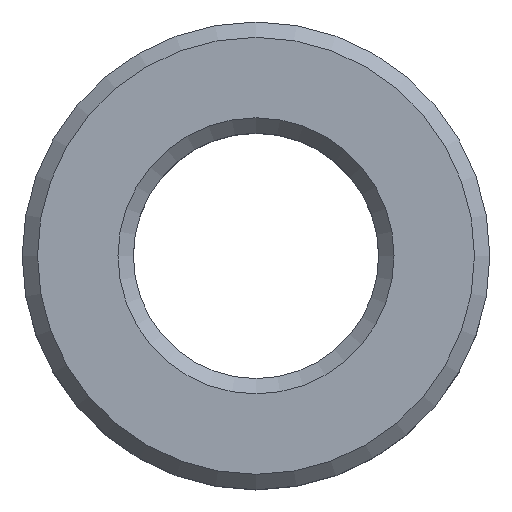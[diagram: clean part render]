
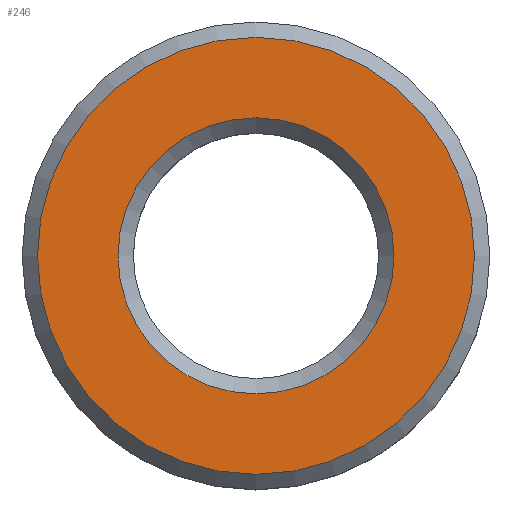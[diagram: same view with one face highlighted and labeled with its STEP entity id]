
A CAD part, top view. The second image highlights one B-rep face of the part: STEP entity #246.
In plain terms, the highlighted planar face has unit normal (0, 0, 1).
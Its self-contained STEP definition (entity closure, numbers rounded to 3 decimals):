
#66 = CONICAL_SURFACE('',#67,3.05,0.785);
#67 = AXIS2_PLACEMENT_3D('',#68,#69,#70);
#68 = CARTESIAN_POINT('',(0.,0.,1.05));
#69 = DIRECTION('',(-0.,-0.,-1.));
#70 = DIRECTION('',(1.,0.,0.));
#163 = VERTEX_POINT('',#164);
#164 = CARTESIAN_POINT('',(2.85,0.,1.25));
#185 = EDGE_CURVE('',#163,#163,#186,.T.);
#186 = SURFACE_CURVE('',#187,(#192,#199),.PCURVE_S1.);
#187 = CIRCLE('',#188,2.85);
#188 = AXIS2_PLACEMENT_3D('',#189,#190,#191);
#189 = CARTESIAN_POINT('',(0.,0.,1.25));
#190 = DIRECTION('',(0.,0.,1.));
#191 = DIRECTION('',(1.,0.,-0.));
#192 = PCURVE('',#66,#193);
#193 = DEFINITIONAL_REPRESENTATION('',(#194),#198);
#194 = LINE('',#195,#196);
#195 = CARTESIAN_POINT('',(-0.,-0.2));
#196 = VECTOR('',#197,1.);
#197 = DIRECTION('',(-1.,-0.));
#198 = ( GEOMETRIC_REPRESENTATION_CONTEXT(2) 
PARAMETRIC_REPRESENTATION_CONTEXT() REPRESENTATION_CONTEXT('2D SPACE',''
  ) );
#199 = PCURVE('',#200,#205);
#200 = PLANE('',#201);
#201 = AXIS2_PLACEMENT_3D('',#202,#203,#204);
#202 = CARTESIAN_POINT('',(0.,0.,1.25));
#203 = DIRECTION('',(0.,0.,1.));
#204 = DIRECTION('',(1.,0.,-0.));
#205 = DEFINITIONAL_REPRESENTATION('',(#206),#210);
#206 = CIRCLE('',#207,2.85);
#207 = AXIS2_PLACEMENT_2D('',#208,#209);
#208 = CARTESIAN_POINT('',(0.,0.));
#209 = DIRECTION('',(1.,0.));
#210 = ( GEOMETRIC_REPRESENTATION_CONTEXT(2) 
PARAMETRIC_REPRESENTATION_CONTEXT() REPRESENTATION_CONTEXT('2D SPACE',''
  ) );
#246 = ADVANCED_FACE('',(#247,#250),#200,.T.);
#247 = FACE_BOUND('',#248,.T.);
#248 = EDGE_LOOP('',(#249));
#249 = ORIENTED_EDGE('',*,*,#185,.T.);
#250 = FACE_BOUND('',#251,.T.);
#251 = EDGE_LOOP('',(#252));
#252 = ORIENTED_EDGE('',*,*,#253,.F.);
#253 = EDGE_CURVE('',#254,#254,#256,.T.);
#254 = VERTEX_POINT('',#255);
#255 = CARTESIAN_POINT('',(1.8,0.,1.25));
#256 = SURFACE_CURVE('',#257,(#262,#269),.PCURVE_S1.);
#257 = CIRCLE('',#258,1.8);
#258 = AXIS2_PLACEMENT_3D('',#259,#260,#261);
#259 = CARTESIAN_POINT('',(0.,0.,1.25));
#260 = DIRECTION('',(0.,0.,1.));
#261 = DIRECTION('',(1.,0.,-0.));
#262 = PCURVE('',#200,#263);
#263 = DEFINITIONAL_REPRESENTATION('',(#264),#268);
#264 = CIRCLE('',#265,1.8);
#265 = AXIS2_PLACEMENT_2D('',#266,#267);
#266 = CARTESIAN_POINT('',(0.,0.));
#267 = DIRECTION('',(1.,0.));
#268 = ( GEOMETRIC_REPRESENTATION_CONTEXT(2) 
PARAMETRIC_REPRESENTATION_CONTEXT() REPRESENTATION_CONTEXT('2D SPACE',''
  ) );
#269 = PCURVE('',#270,#275);
#270 = CONICAL_SURFACE('',#271,1.6,0.785);
#271 = AXIS2_PLACEMENT_3D('',#272,#273,#274);
#272 = CARTESIAN_POINT('',(0.,0.,1.05));
#273 = DIRECTION('',(0.,0.,1.));
#274 = DIRECTION('',(1.,0.,-0.));
#275 = DEFINITIONAL_REPRESENTATION('',(#276),#280);
#276 = LINE('',#277,#278);
#277 = CARTESIAN_POINT('',(-0.,0.2));
#278 = VECTOR('',#279,1.);
#279 = DIRECTION('',(1.,-0.));
#280 = ( GEOMETRIC_REPRESENTATION_CONTEXT(2) 
PARAMETRIC_REPRESENTATION_CONTEXT() REPRESENTATION_CONTEXT('2D SPACE',''
  ) );
